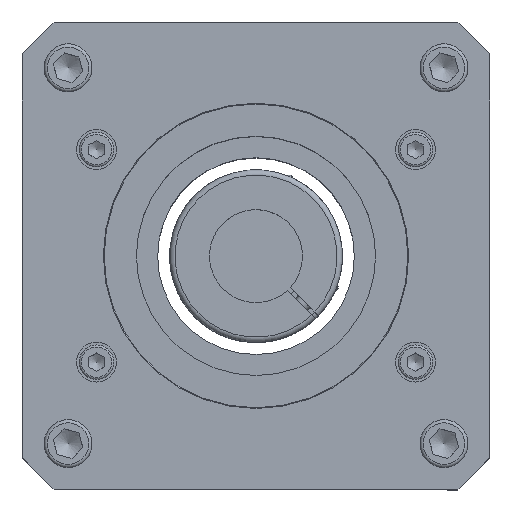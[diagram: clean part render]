
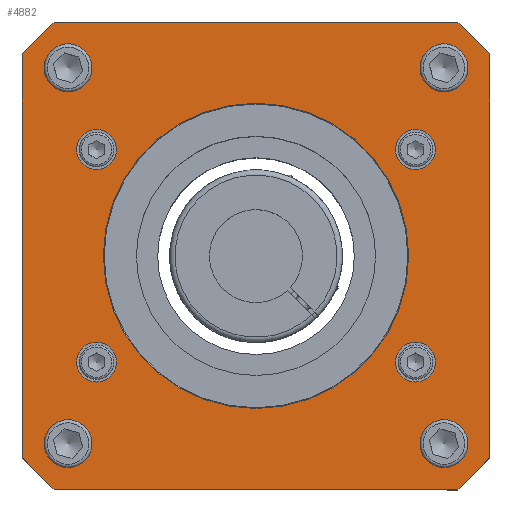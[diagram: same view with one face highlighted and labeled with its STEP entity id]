
A CAD part, top view. The second image highlights one B-rep face of the part: STEP entity #4882.
In plain terms, the highlighted planar face has unit normal (0, 0, 1).
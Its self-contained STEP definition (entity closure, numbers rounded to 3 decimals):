
#382=LINE('',#7644,#666);
#383=LINE('',#7646,#667);
#384=LINE('',#7648,#668);
#385=LINE('',#7650,#669);
#386=LINE('',#7652,#670);
#387=LINE('',#7654,#671);
#388=LINE('',#7656,#672);
#389=LINE('',#7657,#673);
#666=VECTOR('',#6109,16.971);
#667=VECTOR('',#6110,152.);
#668=VECTOR('',#6111,16.971);
#669=VECTOR('',#6112,152.);
#670=VECTOR('',#6113,16.971);
#671=VECTOR('',#6114,152.);
#672=VECTOR('',#6115,16.971);
#673=VECTOR('',#6116,152.);
#982=PLANE('',#5279);
#1146=FACE_BOUND('',#1668,.T.);
#1147=FACE_BOUND('',#1669,.T.);
#1148=FACE_BOUND('',#1670,.T.);
#1149=FACE_BOUND('',#1671,.T.);
#1150=FACE_BOUND('',#1672,.T.);
#1151=FACE_BOUND('',#1673,.T.);
#1152=FACE_BOUND('',#1674,.T.);
#1153=FACE_BOUND('',#1675,.T.);
#1154=FACE_BOUND('',#1676,.T.);
#1303=FACE_OUTER_BOUND('',#1667,.T.);
#1667=EDGE_LOOP('',(#3627,#3628,#3629,#3630,#3631,#3632,#3633,#3634));
#1668=EDGE_LOOP('',(#3635));
#1669=EDGE_LOOP('',(#3636));
#1670=EDGE_LOOP('',(#3637));
#1671=EDGE_LOOP('',(#3638));
#1672=EDGE_LOOP('',(#3639));
#1673=EDGE_LOOP('',(#3640));
#1674=EDGE_LOOP('',(#3641));
#1675=EDGE_LOOP('',(#3642));
#1676=EDGE_LOOP('',(#3643));
#2052=CIRCLE('',#5276,57.439);
#2054=CIRCLE('',#5280,7.5);
#2055=CIRCLE('',#5281,7.5);
#2056=CIRCLE('',#5282,7.5);
#2057=CIRCLE('',#5283,7.5);
#2058=CIRCLE('',#5284,5.053);
#2059=CIRCLE('',#5285,5.053);
#2060=CIRCLE('',#5286,5.053);
#2061=CIRCLE('',#5287,5.053);
#2372=VERTEX_POINT('',#7636);
#2374=VERTEX_POINT('',#7642);
#2375=VERTEX_POINT('',#7643);
#2376=VERTEX_POINT('',#7645);
#2377=VERTEX_POINT('',#7647);
#2378=VERTEX_POINT('',#7649);
#2379=VERTEX_POINT('',#7651);
#2380=VERTEX_POINT('',#7653);
#2381=VERTEX_POINT('',#7655);
#2382=VERTEX_POINT('',#7658);
#2383=VERTEX_POINT('',#7660);
#2384=VERTEX_POINT('',#7662);
#2385=VERTEX_POINT('',#7664);
#2386=VERTEX_POINT('',#7666);
#2387=VERTEX_POINT('',#7668);
#2388=VERTEX_POINT('',#7670);
#2389=VERTEX_POINT('',#7672);
#2864=EDGE_CURVE('',#2372,#2372,#2052,.T.);
#2866=EDGE_CURVE('',#2374,#2375,#382,.T.);
#2867=EDGE_CURVE('',#2376,#2374,#383,.T.);
#2868=EDGE_CURVE('',#2377,#2376,#384,.T.);
#2869=EDGE_CURVE('',#2378,#2377,#385,.T.);
#2870=EDGE_CURVE('',#2379,#2378,#386,.T.);
#2871=EDGE_CURVE('',#2380,#2379,#387,.T.);
#2872=EDGE_CURVE('',#2381,#2380,#388,.T.);
#2873=EDGE_CURVE('',#2375,#2381,#389,.T.);
#2874=EDGE_CURVE('',#2382,#2382,#2054,.T.);
#2875=EDGE_CURVE('',#2383,#2383,#2055,.T.);
#2876=EDGE_CURVE('',#2384,#2384,#2056,.T.);
#2877=EDGE_CURVE('',#2385,#2385,#2057,.T.);
#2878=EDGE_CURVE('',#2386,#2386,#2058,.T.);
#2879=EDGE_CURVE('',#2387,#2387,#2059,.T.);
#2880=EDGE_CURVE('',#2388,#2388,#2060,.T.);
#2881=EDGE_CURVE('',#2389,#2389,#2061,.T.);
#3627=ORIENTED_EDGE('',*,*,#2866,.F.);
#3628=ORIENTED_EDGE('',*,*,#2867,.F.);
#3629=ORIENTED_EDGE('',*,*,#2868,.F.);
#3630=ORIENTED_EDGE('',*,*,#2869,.F.);
#3631=ORIENTED_EDGE('',*,*,#2870,.F.);
#3632=ORIENTED_EDGE('',*,*,#2871,.F.);
#3633=ORIENTED_EDGE('',*,*,#2872,.F.);
#3634=ORIENTED_EDGE('',*,*,#2873,.F.);
#3635=ORIENTED_EDGE('',*,*,#2874,.T.);
#3636=ORIENTED_EDGE('',*,*,#2875,.T.);
#3637=ORIENTED_EDGE('',*,*,#2876,.T.);
#3638=ORIENTED_EDGE('',*,*,#2877,.T.);
#3639=ORIENTED_EDGE('',*,*,#2878,.T.);
#3640=ORIENTED_EDGE('',*,*,#2879,.T.);
#3641=ORIENTED_EDGE('',*,*,#2880,.T.);
#3642=ORIENTED_EDGE('',*,*,#2881,.T.);
#3643=ORIENTED_EDGE('',*,*,#2864,.F.);
#4882=ADVANCED_FACE('',(#1303,#1146,#1147,#1148,#1149,#1150,#1151,#1152,
#1153,#1154),#982,.T.);
#5276=AXIS2_PLACEMENT_3D('',#7637,#6101,#6102);
#5279=AXIS2_PLACEMENT_3D('',#7641,#6107,#6108);
#5280=AXIS2_PLACEMENT_3D('',#7659,#6117,#6118);
#5281=AXIS2_PLACEMENT_3D('',#7661,#6119,#6120);
#5282=AXIS2_PLACEMENT_3D('',#7663,#6121,#6122);
#5283=AXIS2_PLACEMENT_3D('',#7665,#6123,#6124);
#5284=AXIS2_PLACEMENT_3D('',#7667,#6125,#6126);
#5285=AXIS2_PLACEMENT_3D('',#7669,#6127,#6128);
#5286=AXIS2_PLACEMENT_3D('',#7671,#6129,#6130);
#5287=AXIS2_PLACEMENT_3D('',#7673,#6131,#6132);
#6101=DIRECTION('center_axis',(0.,0.,1.));
#6102=DIRECTION('ref_axis',(0.,-1.,0.));
#6107=DIRECTION('center_axis',(0.,0.,1.));
#6108=DIRECTION('ref_axis',(1.,0.,0.));
#6109=DIRECTION('',(-0.707,-0.707,0.));
#6110=DIRECTION('',(0.,-1.,0.));
#6111=DIRECTION('',(0.707,-0.707,0.));
#6112=DIRECTION('',(1.,0.,0.));
#6113=DIRECTION('',(0.707,0.707,0.));
#6114=DIRECTION('',(0.,1.,0.));
#6115=DIRECTION('',(-0.707,0.707,0.));
#6116=DIRECTION('',(-1.,0.,0.));
#6117=DIRECTION('center_axis',(0.,0.,-1.));
#6118=DIRECTION('ref_axis',(1.,0.,0.));
#6119=DIRECTION('center_axis',(0.,0.,-1.));
#6120=DIRECTION('ref_axis',(1.,0.,0.));
#6121=DIRECTION('center_axis',(0.,0.,-1.));
#6122=DIRECTION('ref_axis',(1.,0.,0.));
#6123=DIRECTION('center_axis',(0.,0.,-1.));
#6124=DIRECTION('ref_axis',(1.,0.,0.));
#6125=DIRECTION('center_axis',(0.,0.,-1.));
#6126=DIRECTION('ref_axis',(1.,0.,0.));
#6127=DIRECTION('center_axis',(0.,0.,-1.));
#6128=DIRECTION('ref_axis',(1.,0.,0.));
#6129=DIRECTION('center_axis',(0.,0.,-1.));
#6130=DIRECTION('ref_axis',(1.,0.,0.));
#6131=DIRECTION('center_axis',(0.,0.,-1.));
#6132=DIRECTION('ref_axis',(1.,0.,0.));
#7636=CARTESIAN_POINT('',(0.,57.439,59.));
#7637=CARTESIAN_POINT('Origin',(0.,0.,59.));
#7641=CARTESIAN_POINT('Origin',(0.,0.,
59.));
#7642=CARTESIAN_POINT('',(88.,-76.,59.));
#7643=CARTESIAN_POINT('',(76.,-88.,59.));
#7644=CARTESIAN_POINT('',(82.,-82.,59.));
#7645=CARTESIAN_POINT('',(88.,76.,59.));
#7646=CARTESIAN_POINT('',(88.,88.,59.));
#7647=CARTESIAN_POINT('',(76.,88.,59.));
#7648=CARTESIAN_POINT('',(82.,82.,59.));
#7649=CARTESIAN_POINT('',(-76.,88.,59.));
#7650=CARTESIAN_POINT('',(-88.,88.,59.));
#7651=CARTESIAN_POINT('',(-88.,76.,59.));
#7652=CARTESIAN_POINT('',(-82.,82.,59.));
#7653=CARTESIAN_POINT('',(-88.,-76.,59.));
#7654=CARTESIAN_POINT('',(-88.,-88.,59.));
#7655=CARTESIAN_POINT('',(-76.,-88.,59.));
#7656=CARTESIAN_POINT('',(-82.,-82.,59.));
#7657=CARTESIAN_POINT('',(88.,-88.,59.));
#7658=CARTESIAN_POINT('',(67.5,40.,59.));
#7659=CARTESIAN_POINT('Origin',(60.,40.,59.));
#7660=CARTESIAN_POINT('',(-52.5,40.,59.));
#7661=CARTESIAN_POINT('Origin',(-60.,40.,59.));
#7662=CARTESIAN_POINT('',(-52.5,-40.,59.));
#7663=CARTESIAN_POINT('Origin',(-60.,-40.,59.));
#7664=CARTESIAN_POINT('',(67.5,-40.,59.));
#7665=CARTESIAN_POINT('Origin',(60.,-40.,59.));
#7666=CARTESIAN_POINT('',(75.764,70.711,59.));
#7667=CARTESIAN_POINT('Origin',(70.711,70.711,59.));
#7668=CARTESIAN_POINT('',(-65.658,70.711,59.));
#7669=CARTESIAN_POINT('Origin',(-70.711,70.711,59.));
#7670=CARTESIAN_POINT('',(-65.658,-70.711,59.));
#7671=CARTESIAN_POINT('Origin',(-70.711,-70.711,59.));
#7672=CARTESIAN_POINT('',(75.764,-70.711,59.));
#7673=CARTESIAN_POINT('Origin',(70.711,-70.711,59.));
